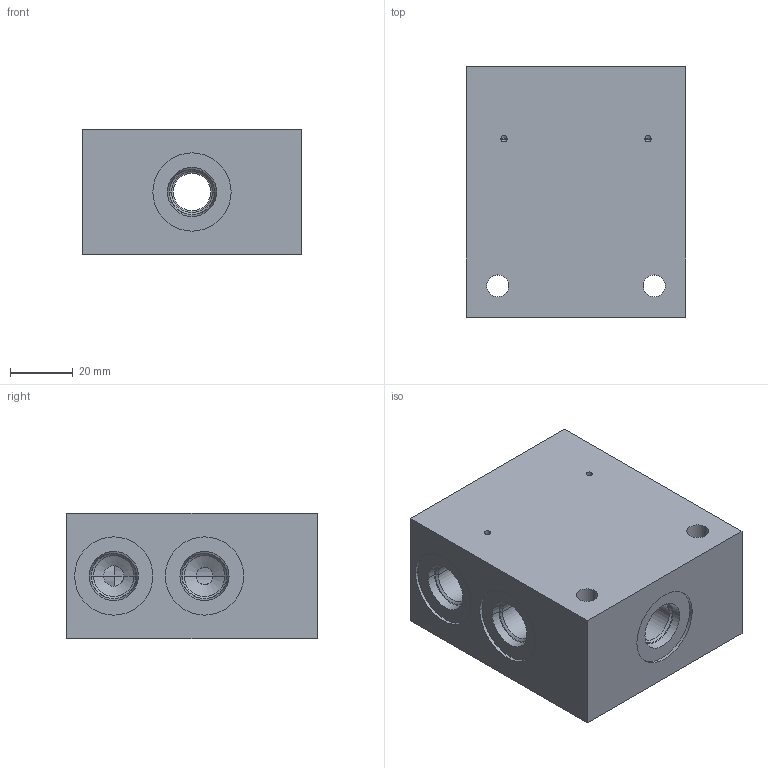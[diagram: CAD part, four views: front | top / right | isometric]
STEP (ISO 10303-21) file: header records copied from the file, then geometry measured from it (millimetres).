
FILE_DESCRIPTION((''),'2;1');
FILE_NAME('34277800','2023-10-11T',('l.soukupova'),(''),'PRO/ENGINEER BY PARAMETRIC TECHNOLOGY CORPORATION, 2015440','PRO/ENGINEER BY PARAMETRIC TECHNOLOGY CORPORATION, 2015440','');
FILE_SCHEMA(('AUTOMOTIVE_DESIGN { 1 0 10303 214 1 1 1 1 }'));
Length unit declared in the file: millimetre
Products named in the file (1): 34277800
Bounding box: 70 x 80 x 40 mm (x, y, z)
Volume: 196955 mm3; surface area: 33323 mm2
Topology: 1 solids, 6 shells, 108 faces, 340 edges, 275 vertices
Faces by surface type: cylinder 52, cone 40, plane 16
Entity records: 5075 total; most frequent: CARTESIAN_POINT 859, DIRECTION 700, ORIENTED_EDGE 462, PRESENTATION_STYLE_ASSIGNMENT 365, STYLED_ITEM 365, CURVE_STYLE 359, AXIS2_PLACEMENT_3D 252, EDGE_CURVE 241
